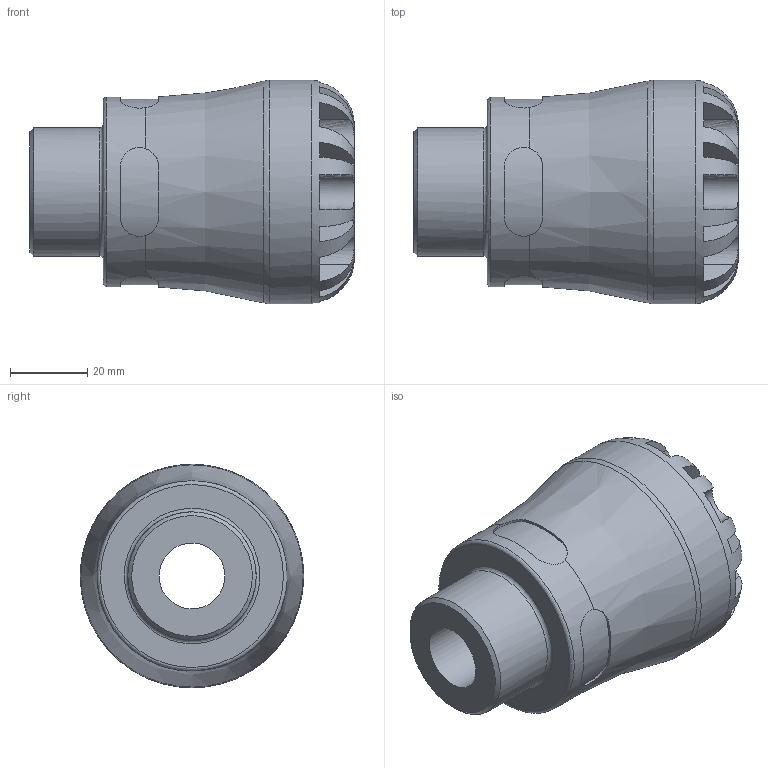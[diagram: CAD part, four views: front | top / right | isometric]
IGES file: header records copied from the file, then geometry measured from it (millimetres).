
Global section: file name: 1002Z0010010; native system: Autodesk Inventor 2019; preprocessor: unknown; author: KIM; date: 20210902.143659; units: inch
Bounding box: 84.07 x 57.91 x 57.91 mm (x, y, z)
Volume: 112019.7 mm3; surface area: 24861.6 mm2
Topology: 1 solids, 1 shells, 100 faces, 273 edges, 177 vertices
Faces by surface type: bspline 100
